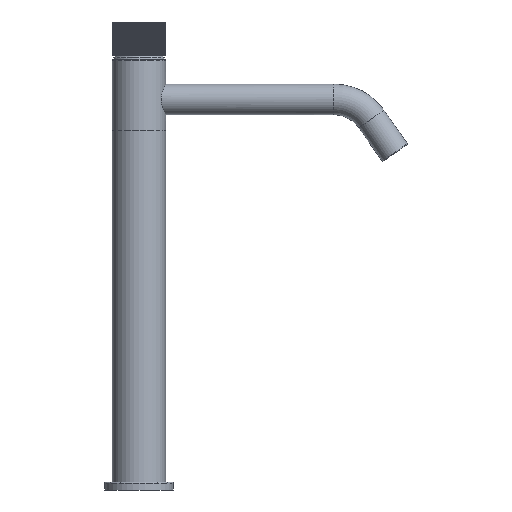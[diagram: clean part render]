
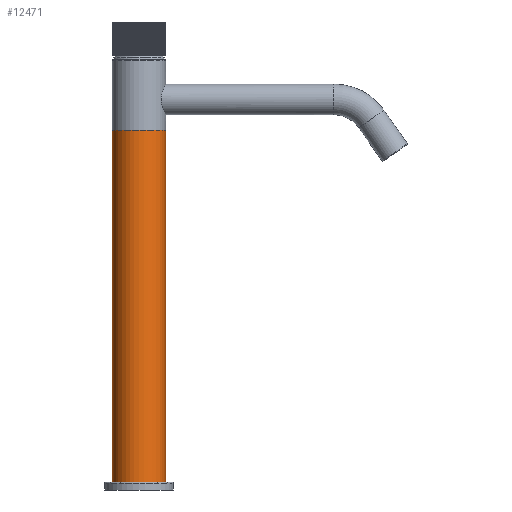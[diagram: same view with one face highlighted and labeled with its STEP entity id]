
A CAD part, front view. The second image highlights one B-rep face of the part: STEP entity #12471.
In plain terms, the highlighted cylindrical face has radius 17.5 mm (diameter 35 mm), a full revolution.
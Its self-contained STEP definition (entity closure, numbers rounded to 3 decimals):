
#2555=CYLINDRICAL_SURFACE('',#18290,17.5);
#2821=ORIENTED_EDGE('',*,*,#6553,.T.);
#2822=ORIENTED_EDGE('',*,*,#6554,.F.);
#6553=EDGE_CURVE('',#8453,#8453,#9763,.T.);
#6554=EDGE_CURVE('',#8454,#8454,#9764,.T.);
#8453=VERTEX_POINT('',#23315);
#8454=VERTEX_POINT('',#23317);
#9763=CIRCLE('',#18291,17.5);
#9764=CIRCLE('',#18292,17.5);
#10395=EDGE_LOOP('',(#2821));
#10396=EDGE_LOOP('',(#2822));
#11301=FACE_BOUND('',#10395,.T.);
#11302=FACE_BOUND('',#10396,.T.);
#12471=ADVANCED_FACE('',(#11301,#11302),#2555,.T.);
#18290=AXIS2_PLACEMENT_3D('',#23313,#19754,#19755);
#18291=AXIS2_PLACEMENT_3D('',#23314,#19756,#19757);
#18292=AXIS2_PLACEMENT_3D('',#23316,#19758,#19759);
#19754=DIRECTION('',(0.,0.,-1.));
#19755=DIRECTION('',(-1.,0.,0.));
#19756=DIRECTION('',(0.,0.,-1.));
#19757=DIRECTION('',(1.,0.,0.));
#19758=DIRECTION('',(0.,0.,-1.));
#19759=DIRECTION('',(1.,0.,0.));
#23313=CARTESIAN_POINT('',(0.,0.,128.4));
#23314=CARTESIAN_POINT('',(0.,0.,86.8));
#23315=CARTESIAN_POINT('',(17.5,0.,86.8));
#23316=CARTESIAN_POINT('',(0.,0.,-143.));
#23317=CARTESIAN_POINT('',(17.5,0.,-143.));
